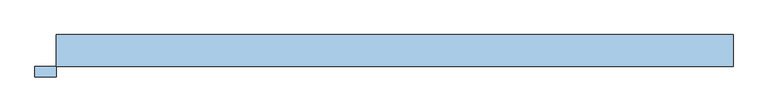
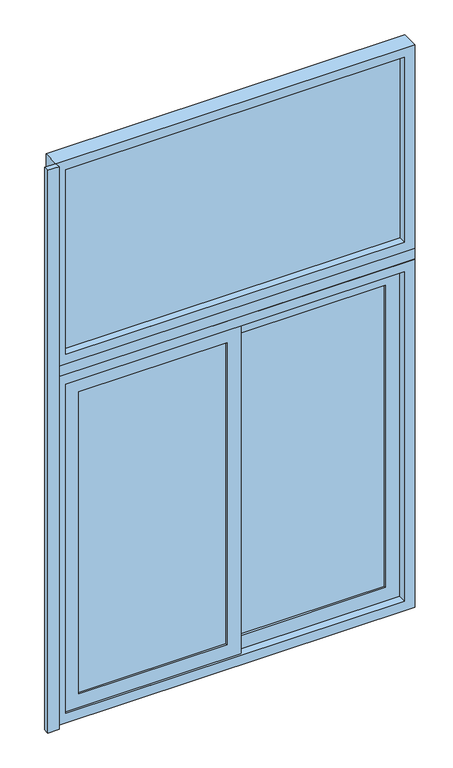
"""IFC4 building model written with IfcOpenShell, lengths in millimetres: window geometry, A8 Ventana_Corrediza_PC_2 hojas AP : A8 Ventana_Corrediza_PC_2 hojas AP 160X265."""

from ifc_helpers import new_model, si_unit, frame, origin, place, context, project, spatial, polyline, outline, extrude, source, transform, mapped, element, save


def window_713f67d2(model_context):
    return source(origin(), model_context, "Body", "SweptSolid", [
        extrude(outline(polyline([(755.0, 47.0), (-755.0, 47.0), (-755.0, 53.0), (755.0, 53.0), (755.0, 47.0)])), frame((0.0, 0.0, 2085.0), z_axis=(0.0, 0.0, 1.0), x_axis=(1.0, 0.0, 0.0)), (0.0, 0.0, 1.0), 870.0),
        extrude(outline(polyline([(-31.5, 31.5769719), (-692.0, 31.5769719), (-692.0, 40.4230281), (-31.5, 40.4230281), (-31.5, 31.5769719)])), frame((0.0, 0.0, 458.0), z_axis=(0.0, 0.0, 1.0), x_axis=(1.0, 0.0, 0.0)), (0.0, 0.0, 1.0), 1424.0),
        extrude(outline(polyline([(692.0, 59.5769719), (31.5, 59.5769719), (31.5, 68.4230281), (692.0, 68.4230281), (692.0, 59.5769719)])), frame((0.0, 0.0, 458.0), z_axis=(0.0, 0.0, 1.0), x_axis=(1.0, 0.0, 0.0)), (0.0, 0.0, 1.0), 1424.0),
        extrude(outline(polyline([(395.0, -755.0), (395.0, 31.5), (1945.0, 31.5), (1945.0, -755.0), (395.0, -755.0)]), holes=[polyline([(458.0, -692.0), (1882.0, -692.0), (1882.0, -31.5), (458.0, -31.5), (458.0, -692.0)])]), frame((0.0, 22.0, 0.0), z_axis=(0.0, 1.0, 0.0), x_axis=(0.0, 0.0, 1.0)), (0.0, 0.0, 1.0), 28.0),
        extrude(outline(polyline([(1945.0, 755.0), (1945.0, -31.5), (395.0, -31.5), (395.0, 755.0), (1945.0, 755.0)]), holes=[polyline([(1882.0, 31.5), (1882.0, 692.0), (458.0, 692.0), (458.0, 31.5), (1882.0, 31.5)])]), frame((0.0, 50.0, 0.0), z_axis=(0.0, 1.0, 0.0), x_axis=(0.0, 0.0, 1.0)), (0.0, 0.0, 1.0), 28.0),
        extrude(outline(polyline([(1990.0, -800.0), (350.0, -800.0), (350.0, 800.0), (1990.0, 800.0), (1990.0, -800.0)]), holes=[polyline([(1945.0, -755.0), (1945.0, 755.0), (395.0, 755.0), (395.0, -755.0), (1945.0, -755.0)])]), frame((0.0, 12.5, 0.0), z_axis=(0.0, 1.0, 0.0), x_axis=(0.0, 0.0, 1.0)), (0.0, 0.0, 1.0), 75.0),
        extrude(outline(polyline([(3000.0, -800.0), (2040.0, -800.0), (2040.0, 800.0), (3000.0, 800.0), (3000.0, -800.0)]), holes=[polyline([(2955.0, -755.0), (2955.0, 755.0), (2085.0, 755.0), (2085.0, -755.0), (2955.0, -755.0)])]), frame((0.0, 12.5, 0.0), z_axis=(0.0, 1.0, 0.0), x_axis=(0.0, 0.0, 1.0)), (0.0, 0.0, 1.0), 75.0),
        extrude(outline(polyline([(800.0, 12.5), (-800.0, 12.5), (-800.0, 87.5), (800.0, 87.5), (800.0, 12.5)])), frame((0.0, 0.0, 1990.0), z_axis=(0.0, 0.0, 1.0), x_axis=(1.0, 0.0, 0.0)), (0.0, 0.0, 1.0), 50.0),
        extrude(outline(polyline([(-800.0, -12.5), (-850.0, -12.5), (-850.0, 12.5), (-800.0, 12.5), (-800.0, -12.5)])), frame((0.0, 0.0, 350.0), z_axis=(0.0, 0.0, 1.0), x_axis=(1.0, 0.0, 0.0)), (0.0, 0.0, 1.0), 2650.0),
    ])


if __name__ == "__main__":
    model = new_model("IFC4")
    model_context = context("Model", 3, world=origin())
    ifc_project = project(units=[si_unit("LENGTHUNIT", "METRE", prefix="MILLI")], contexts=[model_context])
    site = spatial("IfcSite", under=ifc_project)
    building = spatial("IfcBuilding", under=site)
    placement = place(None, origin())
    window_shape = window_713f67d2(model_context)
    element("IfcWindow", 1, ObjectType="A8 Ventana_Corrediza_PC_2 hojas AP : A8 Ventana_Corrediza_PC_2 hojas AP 160X265", at=placement, inside=building, context=model_context, shape_type="MappedRepresentation", body=[
        mapped(window_shape, transform((0.0, 0.0, 0.0), x_axis=(1.0, 0.0, 0.0), y_axis=(0.0, 1.0, 0.0), z_axis=(0.0, 0.0, 1.0))),
    ])
    save(model, "model.ifc")
